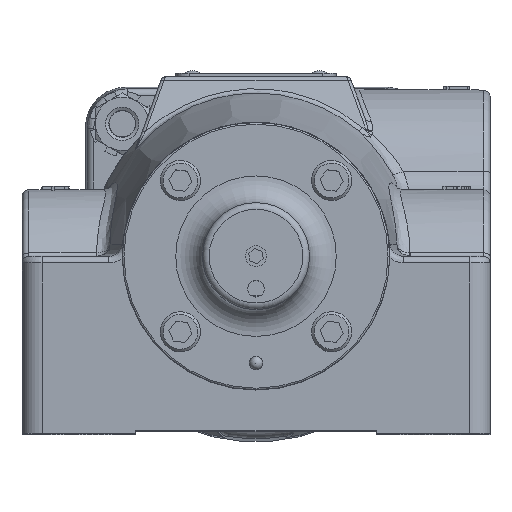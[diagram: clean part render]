
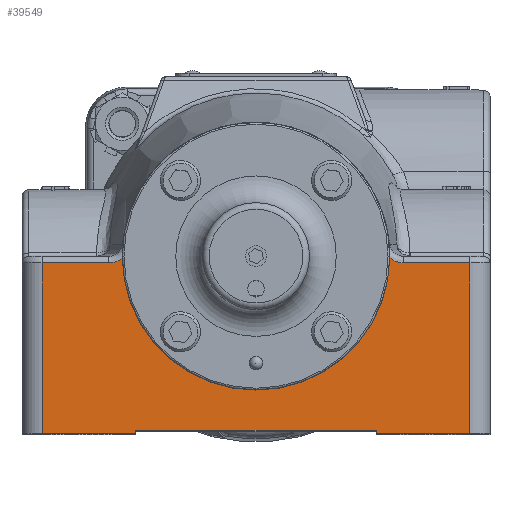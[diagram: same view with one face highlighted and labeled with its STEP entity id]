
A CAD part, top view. The second image highlights one B-rep face of the part: STEP entity #39549.
In plain terms, the highlighted planar face has unit normal (0, 0, 1).
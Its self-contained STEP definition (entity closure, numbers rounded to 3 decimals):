
#2571=PLANE('',#43315);
#4169=FACE_OUTER_BOUND('',#6855,.T.);
#6855=EDGE_LOOP('',(#30807,#30808,#30809,#30810,#30811,#30812,#30813,#30814,
#30815,#30816,#30817,#30818));
#9481=LINE('',#66484,#11480);
#9482=LINE('',#66486,#11481);
#9483=LINE('',#66488,#11482);
#9484=LINE('',#66503,#11483);
#9485=LINE('',#66505,#11484);
#9486=LINE('',#66507,#11485);
#9487=LINE('',#66509,#11486);
#9488=LINE('',#66511,#11487);
#9489=LINE('',#66512,#11488);
#11480=VECTOR('',#51584,2.223);
#11481=VECTOR('',#51585,4.048);
#11482=VECTOR('',#51586,1.583);
#11483=VECTOR('',#51589,1.583);
#11484=VECTOR('',#51590,4.048);
#11485=VECTOR('',#51591,2.223);
#11486=VECTOR('',#51592,0.079);
#11487=VECTOR('',#51593,5.715);
#11488=VECTOR('',#51594,0.079);
#13423=CIRCLE('',#43316,3.178);
#14677=B_SPLINE_CURVE_WITH_KNOTS('',3,(#66490,#66491,#66492,#66493),
 .UNSPECIFIED.,.F.,.F.,(4,4),(0.356,0.703),
 .UNSPECIFIED.);
#14678=B_SPLINE_CURVE_WITH_KNOTS('',3,(#66497,#66498,#66499,#66500,#66501),
 .UNSPECIFIED.,.F.,.F.,(4,1,4),(0.,0.291,0.347),
 .UNSPECIFIED.);
#17453=VERTEX_POINT('',#66482);
#17454=VERTEX_POINT('',#66483);
#17455=VERTEX_POINT('',#66485);
#17456=VERTEX_POINT('',#66487);
#17457=VERTEX_POINT('',#66489);
#17458=VERTEX_POINT('',#66494);
#17459=VERTEX_POINT('',#66496);
#17460=VERTEX_POINT('',#66502);
#17461=VERTEX_POINT('',#66504);
#17462=VERTEX_POINT('',#66506);
#17463=VERTEX_POINT('',#66508);
#17464=VERTEX_POINT('',#66510);
#22099=EDGE_CURVE('',#17453,#17454,#9481,.T.);
#22100=EDGE_CURVE('',#17455,#17454,#9482,.T.);
#22101=EDGE_CURVE('',#17456,#17455,#9483,.T.);
#22102=EDGE_CURVE('',#17457,#17456,#14677,.T.);
#22103=EDGE_CURVE('',#17458,#17457,#13423,.T.);
#22104=EDGE_CURVE('',#17459,#17458,#14678,.T.);
#22105=EDGE_CURVE('',#17460,#17459,#9484,.T.);
#22106=EDGE_CURVE('',#17461,#17460,#9485,.T.);
#22107=EDGE_CURVE('',#17461,#17462,#9486,.T.);
#22108=EDGE_CURVE('',#17462,#17463,#9487,.T.);
#22109=EDGE_CURVE('',#17463,#17464,#9488,.T.);
#22110=EDGE_CURVE('',#17464,#17453,#9489,.T.);
#30807=ORIENTED_EDGE('',*,*,#22099,.T.);
#30808=ORIENTED_EDGE('',*,*,#22100,.F.);
#30809=ORIENTED_EDGE('',*,*,#22101,.F.);
#30810=ORIENTED_EDGE('',*,*,#22102,.F.);
#30811=ORIENTED_EDGE('',*,*,#22103,.F.);
#30812=ORIENTED_EDGE('',*,*,#22104,.F.);
#30813=ORIENTED_EDGE('',*,*,#22105,.F.);
#30814=ORIENTED_EDGE('',*,*,#22106,.F.);
#30815=ORIENTED_EDGE('',*,*,#22107,.T.);
#30816=ORIENTED_EDGE('',*,*,#22108,.T.);
#30817=ORIENTED_EDGE('',*,*,#22109,.T.);
#30818=ORIENTED_EDGE('',*,*,#22110,.T.);
#39549=ADVANCED_FACE('',(#4169),#2571,.T.);
#43315=AXIS2_PLACEMENT_3D('',#66481,#51582,#51583);
#43316=AXIS2_PLACEMENT_3D('',#66495,#51587,#51588);
#51582=DIRECTION('center_axis',(0.,0.,1.));
#51583=DIRECTION('ref_axis',(1.,0.,0.));
#51584=DIRECTION('',(1.,0.,0.));
#51585=DIRECTION('',(0.,-1.,0.));
#51586=DIRECTION('',(1.,0.,0.));
#51587=DIRECTION('center_axis',(0.,0.,1.));
#51588=DIRECTION('ref_axis',(-1.,0.,0.));
#51589=DIRECTION('',(1.,0.,0.));
#51590=DIRECTION('',(0.,1.,0.));
#51591=DIRECTION('',(1.,0.,0.));
#51592=DIRECTION('',(0.,1.,0.));
#51593=DIRECTION('',(1.,0.,0.));
#51594=DIRECTION('',(0.,-1.,0.));
#66481=CARTESIAN_POINT('Origin',(0.,-4.286,8.652));
#66482=CARTESIAN_POINT('',(2.858,-4.207,8.652));
#66483=CARTESIAN_POINT('',(5.08,-4.207,8.652));
#66484=CARTESIAN_POINT('',(0.,-4.207,8.652));
#66485=CARTESIAN_POINT('',(5.08,-0.159,8.652));
#66486=CARTESIAN_POINT('',(5.08,-3.215,8.652));
#66487=CARTESIAN_POINT('',(3.497,-0.159,8.652));
#66488=CARTESIAN_POINT('',(0.,-0.159,8.652));
#66489=CARTESIAN_POINT('',(3.177,-0.037,8.652));
#66490=CARTESIAN_POINT('Ctrl Pts',(3.178,-0.037,
8.652));
#66491=CARTESIAN_POINT('Ctrl Pts',(3.265,-0.114,
8.652));
#66492=CARTESIAN_POINT('Ctrl Pts',(3.381,-0.159,
8.652));
#66493=CARTESIAN_POINT('Ctrl Pts',(3.497,-0.159,
8.652));
#66494=CARTESIAN_POINT('',(-3.177,-0.037,8.652));
#66495=CARTESIAN_POINT('Origin',(0.,0.,8.652));
#66496=CARTESIAN_POINT('',(-3.497,-0.159,8.652));
#66497=CARTESIAN_POINT('Ctrl Pts',(-3.497,-0.159,
8.652));
#66498=CARTESIAN_POINT('Ctrl Pts',(-3.4,-0.159,
8.652));
#66499=CARTESIAN_POINT('Ctrl Pts',(-3.283,-0.122,
8.652));
#66500=CARTESIAN_POINT('Ctrl Pts',(-3.192,-0.05,
8.652));
#66501=CARTESIAN_POINT('Ctrl Pts',(-3.178,-0.037,
8.652));
#66502=CARTESIAN_POINT('',(-5.08,-0.159,8.652));
#66503=CARTESIAN_POINT('',(0.,-0.159,8.652));
#66504=CARTESIAN_POINT('',(-5.08,-4.207,8.652));
#66505=CARTESIAN_POINT('',(-5.08,-3.215,8.652));
#66506=CARTESIAN_POINT('',(-2.858,-4.207,8.652));
#66507=CARTESIAN_POINT('',(0.,-4.207,8.652));
#66508=CARTESIAN_POINT('',(-2.858,-4.128,8.652));
#66509=CARTESIAN_POINT('',(-2.858,-4.247,8.652));
#66510=CARTESIAN_POINT('',(2.858,-4.128,8.652));
#66511=CARTESIAN_POINT('',(0.,-4.128,8.652));
#66512=CARTESIAN_POINT('',(2.858,-4.247,8.652));
